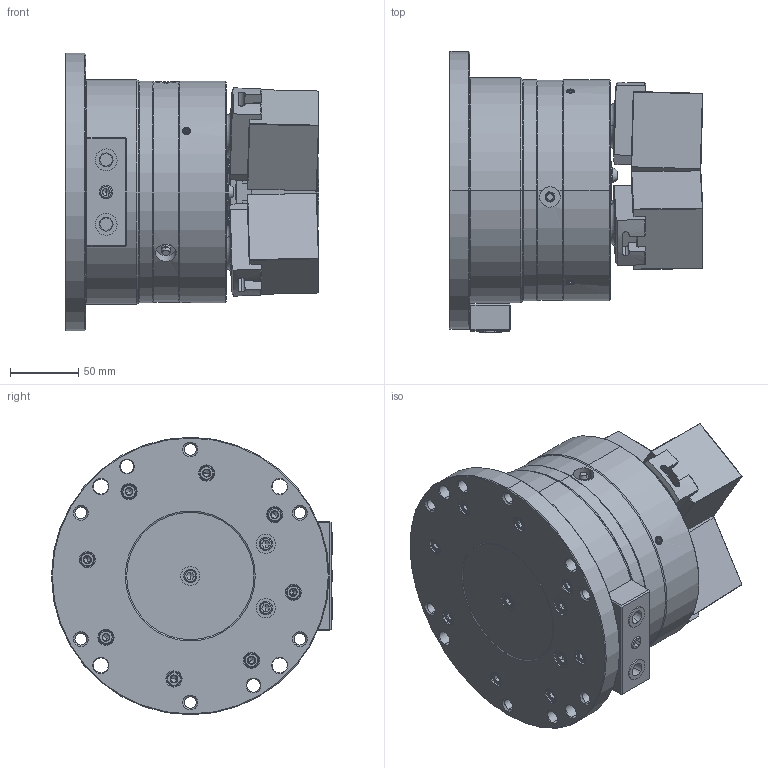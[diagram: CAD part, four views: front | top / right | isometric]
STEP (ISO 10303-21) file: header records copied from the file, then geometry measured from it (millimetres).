
FILE_DESCRIPTION (( 'STEP AP214' ), '1' );
FILE_NAME ('PWS06_OC.STEP', '2020-06-25T05:46:25', ( '' ), ( '' ), 'SwSTEP 2.0', 'SolidWorks 2017', '' );
FILE_SCHEMA (( 'AUTOMOTIVE_DESIGN' ));
Length unit declared in the file: millimetre
Products named in the file (5): PWS06_OC; 結合_OD; 0030110016; 61P422013; 61P324975
Assembly tree (13 placements, depth 2):
  PWS06_OC
    61P324975  x3
    61P422013  x3
    0030110016  x6
    結合_OD
Bounding box: 185.65 x 205.5 x 203 mm (x, y, z)
Volume: 3136195.3 mm3; surface area: 276933.6 mm2
Topology: 15 solids, 28 shells, 2277 faces, 5459 edges, 3367 vertices
Faces by surface type: plane 1083, cone 480, cylinder 371, bspline 263, torus 80
Entity records: 69130 total; most frequent: CARTESIAN_POINT 24493, ORIENTED_EDGE 9476, DIRECTION 8437, EDGE_CURVE 4738, VERTEX_POINT 2971, AXIS2_PLACEMENT_3D 2958, VECTOR 2521, LINE 2521
